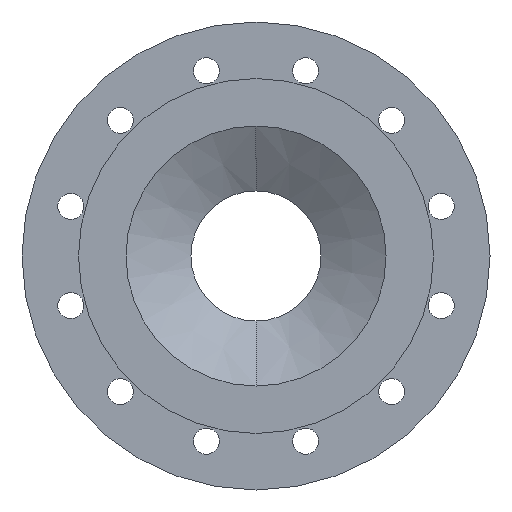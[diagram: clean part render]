
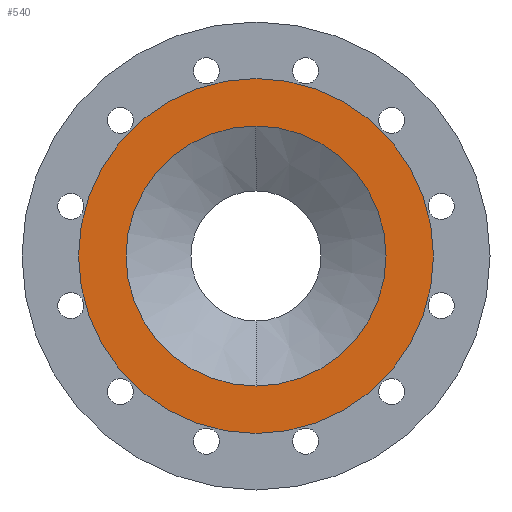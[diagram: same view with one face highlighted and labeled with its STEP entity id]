
A CAD part, left-side view. The second image highlights one B-rep face of the part: STEP entity #540.
In plain terms, the highlighted planar face has unit normal (-1, 0, 0).
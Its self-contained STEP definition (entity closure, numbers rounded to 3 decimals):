
#540=ADVANCED_FACE('',(#1019,#1020),#1021,.F.);
#1019=FACE_BOUND('',#1566,.T.);
#1020=FACE_OUTER_BOUND('',#1567,.T.);
#1021=PLANE('',#1568);
#1566=EDGE_LOOP('',(#2485,#2486));
#1567=EDGE_LOOP('',(#2487,#2488));
#1568=AXIS2_PLACEMENT_3D('',#2489,#2490,#2491);
#2485=ORIENTED_EDGE('',*,*,#3145,.T.);
#2486=ORIENTED_EDGE('',*,*,#3217,.T.);
#2487=ORIENTED_EDGE('',*,*,#3235,.F.);
#2488=ORIENTED_EDGE('',*,*,#3064,.F.);
#2489=CARTESIAN_POINT('',(0.0,0.0,0.));
#2490=DIRECTION('',(1.0,0.0,0.));
#2491=DIRECTION('',(0.,0.0,-1.0));
#3064=EDGE_CURVE('',#3637,#3635,#3639,.T.);
#3145=EDGE_CURVE('',#3753,#3755,#3757,.T.);
#3217=EDGE_CURVE('',#3755,#3753,#3855,.T.);
#3235=EDGE_CURVE('',#3635,#3637,#3876,.T.);
#3635=VERTEX_POINT('',#4376);
#3637=VERTEX_POINT('',#4379);
#3639=CIRCLE('',#4382,136.5);
#3753=VERTEX_POINT('',#4529);
#3755=VERTEX_POINT('',#4532);
#3757=CIRCLE('',#4535,100.0);
#3855=CIRCLE('',#4670,100.0);
#3876=CIRCLE('',#4699,136.5);
#4376=CARTESIAN_POINT('',(0.,0.0,-136.5));
#4379=CARTESIAN_POINT('',(0.,0.,136.5));
#4382=AXIS2_PLACEMENT_3D('',#5030,#5031,#5032);
#4529=CARTESIAN_POINT('',(0.,0.0,-100.0));
#4532=CARTESIAN_POINT('',(0.,0.,100.0));
#4535=AXIS2_PLACEMENT_3D('',#5143,#5144,#5145);
#4670=AXIS2_PLACEMENT_3D('',#5213,#5214,#5215);
#4699=AXIS2_PLACEMENT_3D('',#5230,#5231,#5232);
#5030=CARTESIAN_POINT('',(0.0,0.0,0.));
#5031=DIRECTION('',(1.0,0.0,0.));
#5032=DIRECTION('',(0.,0.0,-1.0));
#5143=CARTESIAN_POINT('',(0.0,0.0,0.0));
#5144=DIRECTION('',(1.0,0.0,0.));
#5145=DIRECTION('',(0.,0.0,-1.0));
#5213=CARTESIAN_POINT('',(0.0,0.0,0.0));
#5214=DIRECTION('',(1.0,0.0,0.));
#5215=DIRECTION('',(0.,0.0,-1.0));
#5230=CARTESIAN_POINT('',(0.0,0.0,0.));
#5231=DIRECTION('',(1.0,0.0,0.));
#5232=DIRECTION('',(0.,0.0,-1.0));
